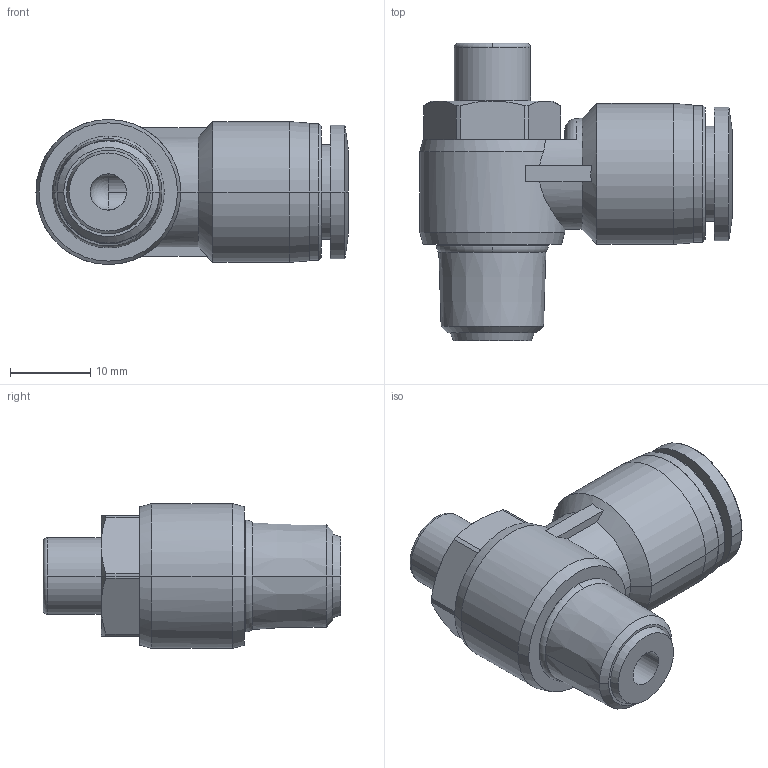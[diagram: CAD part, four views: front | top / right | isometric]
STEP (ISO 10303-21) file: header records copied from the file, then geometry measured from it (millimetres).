
FILE_DESCRIPTION (( 'STEP AP203' ), '1' );
FILE_NAME ('SCLF10-02.STEP', '2020-05-13T17:32:30', ( '' ), ( '' ), 'SwSTEP 2.0', 'SolidWorks 2019', '' );
FILE_SCHEMA (( 'CONFIG_CONTROL_DESIGN' ));
Length unit declared in the file: millimetre
Products named in the file (1): SCLF10-02
Bounding box: 38.8 x 37 x 18 mm (x, y, z)
Volume: 8602.6 mm3; surface area: 4937.4 mm2
Topology: 1 solids, 1 shells, 127 faces, 309 edges, 192 vertices
Faces by surface type: plane 46, cylinder 39, cone 32, torus 7, bspline 2, sphere 1
Entity records: 4036 total; most frequent: CARTESIAN_POINT 966, DIRECTION 669, ORIENTED_EDGE 612, EDGE_CURVE 306, AXIS2_PLACEMENT_3D 271, VERTEX_POINT 192, CIRCLE 145, EDGE_LOOP 140
